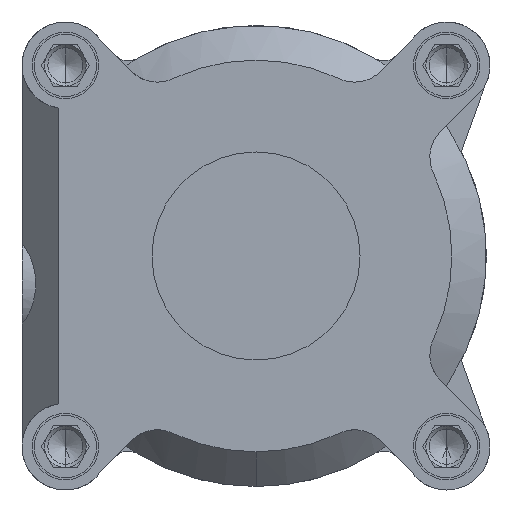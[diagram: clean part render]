
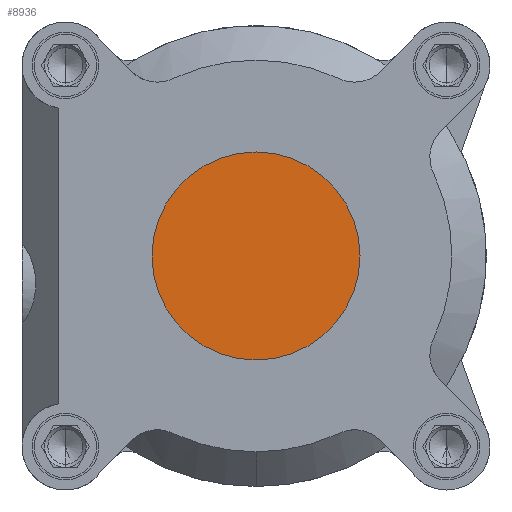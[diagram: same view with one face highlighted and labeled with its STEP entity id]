
A CAD part, left-side view. The second image highlights one B-rep face of the part: STEP entity #8936.
In plain terms, the highlighted planar face has unit normal (-1, 0, 0).
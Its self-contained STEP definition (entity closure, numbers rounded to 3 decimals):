
#536 = DIRECTION ( 'NONE',  ( 1., 0., 0. ) ) ;
#770 = VERTEX_POINT ( 'NONE', #8318 ) ;
#951 = AXIS2_PLACEMENT_3D ( 'NONE', #2286, #10132, #5201 ) ;
#1509 = PLANE ( 'NONE',  #4520 ) ;
#1998 = ORIENTED_EDGE ( 'NONE', *, *, #10019, .T. ) ;
#2286 = CARTESIAN_POINT ( 'NONE',  ( -270., 0., 0. ) ) ;
#3477 = EDGE_LOOP ( 'NONE', ( #1998, #6681 ) ) ;
#3583 = DIRECTION ( 'NONE',  ( 0., 0., -1. ) ) ;
#3929 = AXIS2_PLACEMENT_3D ( 'NONE', #9892, #11174, #3997 ) ;
#3997 = DIRECTION ( 'NONE',  ( 0., 0., 1. ) ) ;
#4520 = AXIS2_PLACEMENT_3D ( 'NONE', #6362, #536, #3583 ) ;
#4833 = EDGE_CURVE ( 'NONE', #770, #7328, #12542, .T. ) ;
#5201 = DIRECTION ( 'NONE',  ( 0., 0., 1. ) ) ;
#5458 = FACE_OUTER_BOUND ( 'NONE', #3477, .T. ) ;
#6362 = CARTESIAN_POINT ( 'NONE',  ( -270., 30., 0. ) ) ;
#6681 = ORIENTED_EDGE ( 'NONE', *, *, #4833, .T. ) ;
#7328 = VERTEX_POINT ( 'NONE', #12735 ) ;
#8318 = CARTESIAN_POINT ( 'NONE',  ( -270., 0., -30. ) ) ;
#8936 = ADVANCED_FACE ( 'NONE', ( #5458 ), #1509, .F. ) ;
#9892 = CARTESIAN_POINT ( 'NONE',  ( -270., 0., 0. ) ) ;
#10019 = EDGE_CURVE ( 'NONE', #7328, #770, #11599, .T. ) ;
#10132 = DIRECTION ( 'NONE',  ( -1., 0., 0. ) ) ;
#11174 = DIRECTION ( 'NONE',  ( -1., 0., 0. ) ) ;
#11599 = CIRCLE ( 'NONE', #3929, 30. ) ;
#12542 = CIRCLE ( 'NONE', #951, 30. ) ;
#12735 = CARTESIAN_POINT ( 'NONE',  ( -270., 0., 30. ) ) ;
